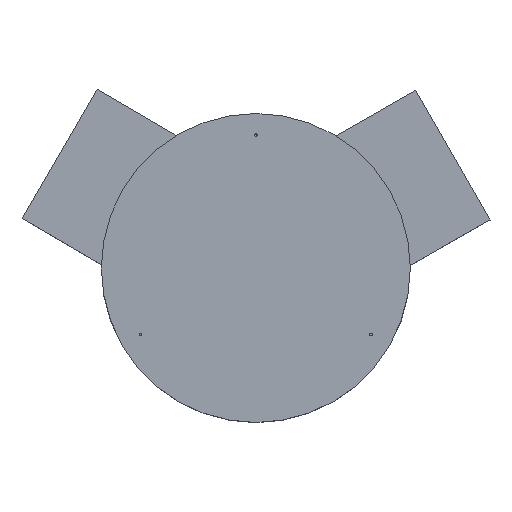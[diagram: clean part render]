
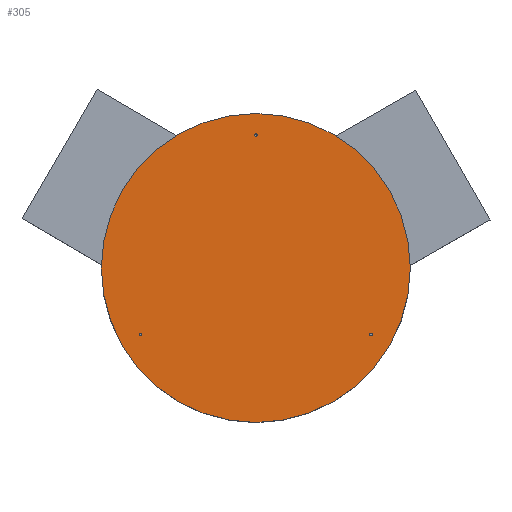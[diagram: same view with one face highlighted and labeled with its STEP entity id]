
A CAD part, top view. The second image highlights one B-rep face of the part: STEP entity #305.
In plain terms, the highlighted planar face has unit normal (0, 0, 1).
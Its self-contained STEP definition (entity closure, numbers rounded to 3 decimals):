
#38=FACE_BOUND('',#95,.T.);
#39=FACE_BOUND('',#96,.T.);
#40=FACE_BOUND('',#97,.T.);
#48=PLANE('',#415);
#69=FACE_OUTER_BOUND('',#94,.T.);
#94=EDGE_LOOP('',(#254));
#95=EDGE_LOOP('',(#255));
#96=EDGE_LOOP('',(#256));
#97=EDGE_LOOP('',(#257));
#149=CIRCLE('',#400,5.);
#151=CIRCLE('',#404,5.);
#153=CIRCLE('',#408,5.);
#156=CIRCLE('',#414,613.);
#164=VERTEX_POINT('',#557);
#166=VERTEX_POINT('',#564);
#168=VERTEX_POINT('',#571);
#171=VERTEX_POINT('',#581);
#191=EDGE_CURVE('',#164,#164,#149,.T.);
#194=EDGE_CURVE('',#166,#166,#151,.T.);
#197=EDGE_CURVE('',#168,#168,#153,.T.);
#201=EDGE_CURVE('',#171,#171,#156,.T.);
#254=ORIENTED_EDGE('',*,*,#201,.T.);
#255=ORIENTED_EDGE('',*,*,#191,.T.);
#256=ORIENTED_EDGE('',*,*,#194,.T.);
#257=ORIENTED_EDGE('',*,*,#197,.T.);
#305=ADVANCED_FACE('',(#69,#38,#39,#40),#48,.T.);
#400=AXIS2_PLACEMENT_3D('',#558,#461,#462);
#404=AXIS2_PLACEMENT_3D('',#565,#470,#471);
#408=AXIS2_PLACEMENT_3D('',#572,#479,#480);
#414=AXIS2_PLACEMENT_3D('',#582,#492,#493);
#415=AXIS2_PLACEMENT_3D('',#584,#495,#496);
#461=DIRECTION('center_axis',(0.,0.,-1.));
#462=DIRECTION('ref_axis',(-0.5,-0.866,0.));
#470=DIRECTION('center_axis',(0.,0.,-1.));
#471=DIRECTION('ref_axis',(-0.5,0.866,0.));
#479=DIRECTION('center_axis',(0.,0.,-1.));
#480=DIRECTION('ref_axis',(1.,0.,0.));
#492=DIRECTION('center_axis',(0.,0.,1.));
#493=DIRECTION('ref_axis',(1.,0.,0.));
#495=DIRECTION('center_axis',(0.,0.,1.));
#496=DIRECTION('ref_axis',(1.,0.,0.));
#557=CARTESIAN_POINT('',(459.328,-259.42,25.));
#558=CARTESIAN_POINT('Origin',(456.828,-263.75,25.));
#564=CARTESIAN_POINT('',(-454.328,-268.08,25.));
#565=CARTESIAN_POINT('Origin',(-456.828,-263.75,25.));
#571=CARTESIAN_POINT('',(-5.,527.5,25.));
#572=CARTESIAN_POINT('Origin',(0.,527.5,25.));
#581=CARTESIAN_POINT('',(-613.,0.,25.));
#582=CARTESIAN_POINT('Origin',(0.,0.,25.));
#584=CARTESIAN_POINT('Origin',(0.,0.,25.));
